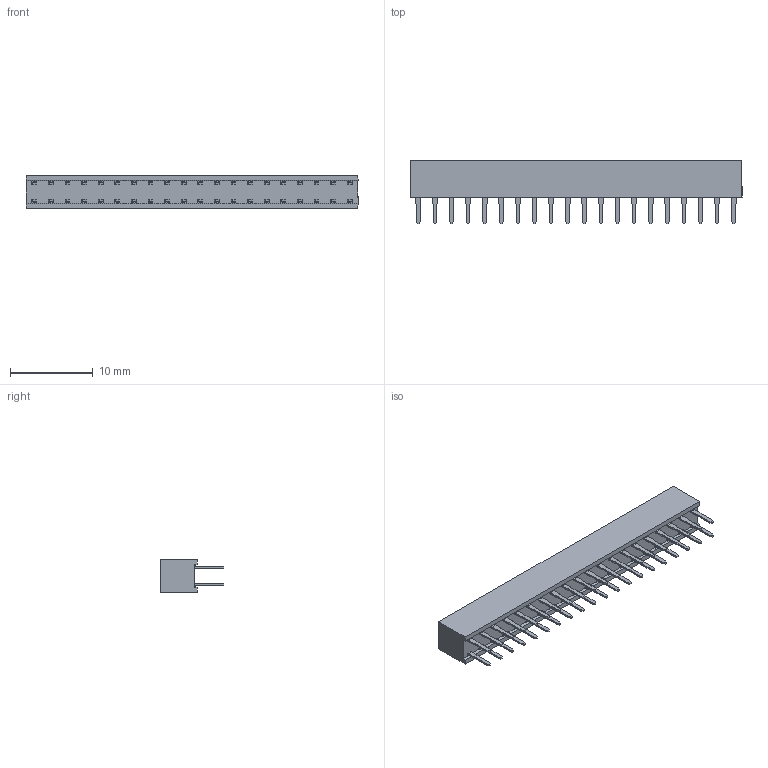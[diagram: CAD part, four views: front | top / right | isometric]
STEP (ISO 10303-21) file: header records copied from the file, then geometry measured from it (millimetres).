
FILE_DESCRIPTION (( 'STEP AP214' ), '1' );
FILE_NAME ('2141-2X20G00SA.STEP', '2021-01-21T01:08:19', ( '' ), ( '' ), 'SwSTEP 2.0', 'SolidWorks 2011', '' );
FILE_SCHEMA (( 'AUTOMOTIVE_DESIGN' ));
Length unit declared in the file: millimetre
Products named in the file (1): 2141-2X20G00SA
Bounding box: 40 x 7.7 x 4 mm (x, y, z)
Volume: 676.9 mm3; surface area: 1093.6 mm2
Topology: 1 solids, 1 shells, 1410 faces, 3824 edges, 2496 vertices
Faces by surface type: plane 1170, cylinder 240
Entity records: 43722 total; most frequent: CARTESIAN_POINT 7971, ORIENTED_EDGE 7648, DIRECTION 7046, EDGE_CURVE 3824, VECTOR 3264, LINE 3264, VERTEX_POINT 2496, AXIS2_PLACEMENT_3D 1891
